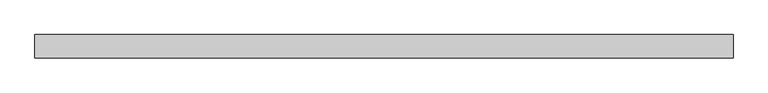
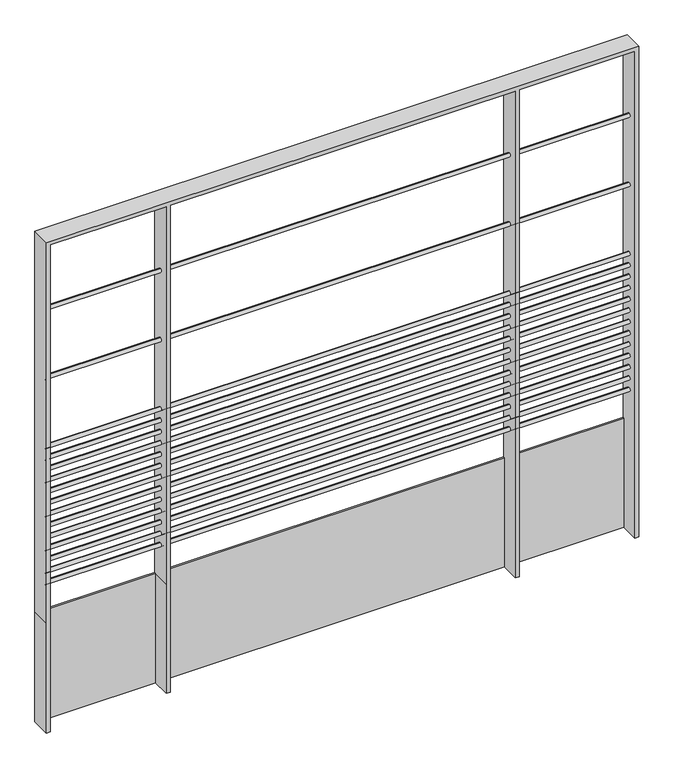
"""IFC4 building model written with IfcOpenShell, lengths in millimetres: railing geometry, Garde-corps 10 : Garde-corps 1."""

from ifc_helpers import new_model, si_unit, point, frame, frame_2d, origin, place, context, project, spatial, polyline, circle_curve, trimmed, segment, composite_curve, outline, extrude, source, transform, mapped, element, save


def railing_cede2b0b(model_context):
    return source(origin(), model_context, "Body", "SweptSolid", [
        extrude(outline(composite_curve([segment(trimmed(circle_curve(frame_2d((4986.5832812, 6623.33)), 5.0), [point((4986.5832812, 6618.33))], [point((4986.5832812, 6628.33))], False, "CARTESIAN"), True, "CONTINUOUS"), segment(trimmed(circle_curve(frame_2d((4986.5832812, 6623.33)), 5.0), [point((4986.5832812, 6628.33))], [point((4986.5832812, 6618.33))], False, "CARTESIAN"), True, "CONTINUOUS")], self_intersect=False)), frame((9198.2466393, 0.0, 0.0), z_axis=(1.0, 0.0, 0.0), x_axis=(0.0, 1.0, 0.0)), (0.0, 0.0, 1.0), 1464.8276785),
        extrude(outline(composite_curve([segment(trimmed(circle_curve(frame_2d((4986.5832812, 6806.66)), 5.0), [point((4986.5832812, 6801.66))], [point((4986.5832812, 6811.66))], False, "CARTESIAN"), True, "CONTINUOUS"), segment(trimmed(circle_curve(frame_2d((4986.5832812, 6806.66)), 5.0), [point((4986.5832812, 6811.66))], [point((4986.5832812, 6801.66))], False, "CARTESIAN"), True, "CONTINUOUS")], self_intersect=False)), frame((9198.2466393, 0.0, 0.0), z_axis=(1.0, 0.0, 0.0), x_axis=(0.0, 1.0, 0.0)), (0.0, 0.0, 1.0), 1464.8276785),
        extrude(outline(composite_curve([segment(trimmed(circle_curve(frame_2d((4986.5832812, 6440.0)), 5.0), [point((4986.5832812, 6435.0))], [point((4986.5832812, 6445.0))], False, "CARTESIAN"), True, "CONTINUOUS"), segment(trimmed(circle_curve(frame_2d((4986.5832812, 6440.0)), 5.0), [point((4986.5832812, 6445.0))], [point((4986.5832812, 6435.0))], False, "CARTESIAN"), True, "CONTINUOUS")], self_intersect=False)), frame((9198.2466393, 0.0, 0.0), z_axis=(1.0, 0.0, 0.0), x_axis=(0.0, 1.0, 0.0)), (0.0, 0.0, 1.0), 1464.8276785),
        extrude(outline(composite_curve([segment(trimmed(circle_curve(frame_2d((4986.5832812, 6410.0)), 5.0), [point((4986.5832812, 6405.0))], [point((4986.5832812, 6415.0))], False, "CARTESIAN"), True, "CONTINUOUS"), segment(trimmed(circle_curve(frame_2d((4986.5832812, 6410.0)), 5.0), [point((4986.5832812, 6415.0))], [point((4986.5832812, 6405.0))], False, "CARTESIAN"), True, "CONTINUOUS")], self_intersect=False)), frame((9198.2466393, 0.0, 0.0), z_axis=(1.0, 0.0, 0.0), x_axis=(0.0, 1.0, 0.0)), (0.0, 0.0, 1.0), 1464.8276785),
        extrude(outline(composite_curve([segment(trimmed(circle_curve(frame_2d((4986.5832812, 6380.0)), 5.0), [point((4986.5832812, 6375.0))], [point((4986.5832812, 6385.0))], False, "CARTESIAN"), True, "CONTINUOUS"), segment(trimmed(circle_curve(frame_2d((4986.5832812, 6380.0)), 5.0), [point((4986.5832812, 6385.0))], [point((4986.5832812, 6375.0))], False, "CARTESIAN"), True, "CONTINUOUS")], self_intersect=False)), frame((9198.2466393, 0.0, 0.0), z_axis=(1.0, 0.0, 0.0), x_axis=(0.0, 1.0, 0.0)), (0.0, 0.0, 1.0), 1464.8276785),
        extrude(outline(composite_curve([segment(trimmed(circle_curve(frame_2d((4986.5832812, 6350.0)), 5.0), [point((4986.5832812, 6345.0))], [point((4986.5832812, 6355.0))], False, "CARTESIAN"), True, "CONTINUOUS"), segment(trimmed(circle_curve(frame_2d((4986.5832812, 6350.0)), 5.0), [point((4986.5832812, 6355.0))], [point((4986.5832812, 6345.0))], False, "CARTESIAN"), True, "CONTINUOUS")], self_intersect=False)), frame((9198.2466393, 0.0, 0.0), z_axis=(1.0, 0.0, 0.0), x_axis=(0.0, 1.0, 0.0)), (0.0, 0.0, 1.0), 1464.8276785),
        extrude(outline(composite_curve([segment(trimmed(circle_curve(frame_2d((4986.5832812, 6320.0)), 5.0), [point((4986.5832812, 6315.0))], [point((4986.5832812, 6325.0))], False, "CARTESIAN"), True, "CONTINUOUS"), segment(trimmed(circle_curve(frame_2d((4986.5832812, 6320.0)), 5.0), [point((4986.5832812, 6325.0))], [point((4986.5832812, 6315.0))], False, "CARTESIAN"), True, "CONTINUOUS")], self_intersect=False)), frame((9198.2466393, 0.0, 0.0), z_axis=(1.0, 0.0, 0.0), x_axis=(0.0, 1.0, 0.0)), (0.0, 0.0, 1.0), 1464.8276785),
        extrude(outline(composite_curve([segment(trimmed(circle_curve(frame_2d((4986.5832812, 6290.0)), 5.0), [point((4986.5832812, 6285.0))], [point((4986.5832812, 6295.0))], False, "CARTESIAN"), True, "CONTINUOUS"), segment(trimmed(circle_curve(frame_2d((4986.5832812, 6290.0)), 5.0), [point((4986.5832812, 6295.0))], [point((4986.5832812, 6285.0))], False, "CARTESIAN"), True, "CONTINUOUS")], self_intersect=False)), frame((9198.2466393, 0.0, 0.0), z_axis=(1.0, 0.0, 0.0), x_axis=(0.0, 1.0, 0.0)), (0.0, 0.0, 1.0), 1464.8276785),
        extrude(outline(composite_curve([segment(trimmed(circle_curve(frame_2d((4986.5832812, 6260.0)), 5.0), [point((4986.5832812, 6255.0))], [point((4986.5832812, 6265.0))], False, "CARTESIAN"), True, "CONTINUOUS"), segment(trimmed(circle_curve(frame_2d((4986.5832812, 6260.0)), 5.0), [point((4986.5832812, 6265.0))], [point((4986.5832812, 6255.0))], False, "CARTESIAN"), True, "CONTINUOUS")], self_intersect=False)), frame((9198.2466393, 0.0, 0.0), z_axis=(1.0, 0.0, 0.0), x_axis=(0.0, 1.0, 0.0)), (0.0, 0.0, 1.0), 1464.8276785),
        extrude(outline(composite_curve([segment(trimmed(circle_curve(frame_2d((4986.5832812, 6230.0)), 5.0), [point((4986.5832812, 6225.0))], [point((4986.5832812, 6235.0))], False, "CARTESIAN"), True, "CONTINUOUS"), segment(trimmed(circle_curve(frame_2d((4986.5832812, 6230.0)), 5.0), [point((4986.5832812, 6235.0))], [point((4986.5832812, 6225.0))], False, "CARTESIAN"), True, "CONTINUOUS")], self_intersect=False)), frame((9198.2466393, 0.0, 0.0), z_axis=(1.0, 0.0, 0.0), x_axis=(0.0, 1.0, 0.0)), (0.0, 0.0, 1.0), 1464.8276785),
        extrude(outline(composite_curve([segment(trimmed(circle_curve(frame_2d((4986.5832812, 6200.0)), 5.0), [point((4986.5832812, 6195.0))], [point((4986.5832812, 6205.0))], False, "CARTESIAN"), True, "CONTINUOUS"), segment(trimmed(circle_curve(frame_2d((4986.5832812, 6200.0)), 5.0), [point((4986.5832812, 6205.0))], [point((4986.5832812, 6195.0))], False, "CARTESIAN"), True, "CONTINUOUS")], self_intersect=False)), frame((9198.2466393, 0.0, 0.0), z_axis=(1.0, 0.0, 0.0), x_axis=(0.0, 1.0, 0.0)), (0.0, 0.0, 1.0), 1464.8276785),
        extrude(outline(composite_curve([segment(trimmed(circle_curve(frame_2d((4986.5832812, 6170.0)), 5.0), [point((4986.5832812, 6165.0))], [point((4986.5832812, 6175.0))], False, "CARTESIAN"), True, "CONTINUOUS"), segment(trimmed(circle_curve(frame_2d((4986.5832812, 6170.0)), 5.0), [point((4986.5832812, 6175.0))], [point((4986.5832812, 6165.0))], False, "CARTESIAN"), True, "CONTINUOUS")], self_intersect=False)), frame((9198.2466393, 0.0, 0.0), z_axis=(1.0, 0.0, 0.0), x_axis=(0.0, 1.0, 0.0)), (0.0, 0.0, 1.0), 1464.8276785),
        extrude(outline(composite_curve([segment(trimmed(circle_curve(frame_2d((4986.5832812, 6140.0)), 5.0), [point((4986.5832812, 6135.0))], [point((4986.5832812, 6145.0))], False, "CARTESIAN"), True, "CONTINUOUS"), segment(trimmed(circle_curve(frame_2d((4986.5832812, 6140.0)), 5.0), [point((4986.5832812, 6145.0))], [point((4986.5832812, 6135.0))], False, "CARTESIAN"), True, "CONTINUOUS")], self_intersect=False)), frame((9198.2466393, 0.0, 0.0), z_axis=(1.0, 0.0, 0.0), x_axis=(0.0, 1.0, 0.0)), (0.0, 0.0, 1.0), 1464.8276785),
        extrude(outline(composite_curve([segment(trimmed(circle_curve(frame_2d((4986.5832812, 6110.0)), 5.0), [point((4986.5832812, 6105.0))], [point((4986.5832812, 6115.0))], False, "CARTESIAN"), True, "CONTINUOUS"), segment(trimmed(circle_curve(frame_2d((4986.5832812, 6110.0)), 5.0), [point((4986.5832812, 6115.0))], [point((4986.5832812, 6105.0))], False, "CARTESIAN"), True, "CONTINUOUS")], self_intersect=False)), frame((9198.2466393, 0.0, 0.0), z_axis=(1.0, 0.0, 0.0), x_axis=(0.0, 1.0, 0.0)), (0.0, 0.0, 1.0), 1464.8276785),
        extrude(outline(composite_curve([segment(trimmed(circle_curve(frame_2d((4986.5832812, 6080.0)), 5.0), [point((4986.5832812, 6075.0))], [point((4986.5832812, 6085.0))], False, "CARTESIAN"), True, "CONTINUOUS"), segment(trimmed(circle_curve(frame_2d((4986.5832812, 6080.0)), 5.0), [point((4986.5832812, 6085.0))], [point((4986.5832812, 6075.0))], False, "CARTESIAN"), True, "CONTINUOUS")], self_intersect=False)), frame((9198.2466393, 0.0, 0.0), z_axis=(1.0, 0.0, 0.0), x_axis=(0.0, 1.0, 0.0)), (0.0, 0.0, 1.0), 1464.8276785),
        extrude(outline(polyline([(10663.0743178, 5011.5832812), (10663.0743178, 5008.5832812), (9198.2466393, 5008.5832812), (9198.2466393, 5011.5832812), (10663.0743178, 5011.5832812)])), frame((0.0, 0.0, 5700.0), z_axis=(0.0, 0.0, 1.0), x_axis=(1.0, 0.0, 0.0)), (0.0, 0.0, 1.0), 290.0),
        extrude(outline(polyline([(5990.0, 9188.2466393), (5700.0, 9188.2466393), (5700.0, 9198.2466393), (5990.0, 9198.2466393), (6990.0, 9198.2466393), (6990.0, 9488.2466393), (5990.0, 9488.2466393), (5700.0, 9488.2466393), (5700.0, 9498.2466393), (5990.0, 9498.2466393), (6990.0, 9498.2466393), (6990.0, 10363.0743178), (5700.0, 10363.0743178), (5700.0, 10373.0743178), (6990.0, 10373.0743178), (6990.0, 10663.0743178), (5700.0, 10663.0743178), (5700.0, 10673.0743178), (7000.0, 10673.0743178), (7000.0, 9188.2466393), (5990.0, 9188.2466393)])), frame((0.0, 4961.5832812, 0.0), z_axis=(0.0, 1.0, 0.0), x_axis=(0.0, 0.0, 1.0)), (0.0, 0.0, 1.0), 50.0),
    ])


if __name__ == "__main__":
    model = new_model("IFC4")
    model_context = context("Model", 3, world=origin())
    ifc_project = project(units=[si_unit("LENGTHUNIT", "METRE", prefix="MILLI")], contexts=[model_context])
    site = spatial("IfcSite", under=ifc_project)
    building = spatial("IfcBuilding", under=site)
    placement = place(None, origin())
    railing_shape = railing_cede2b0b(model_context)
    element("IfcRailing", 1, ObjectType="Garde-corps 10 : Garde-corps 1", at=placement, inside=building, context=model_context, shape_type="MappedRepresentation", body=[
        mapped(railing_shape, transform((0.0, 0.0, 0.0), x_axis=(1.0, 0.0, 0.0), y_axis=(0.0, 1.0, 0.0), z_axis=(0.0, 0.0, 1.0))),
    ])
    save(model, "model.ifc")
